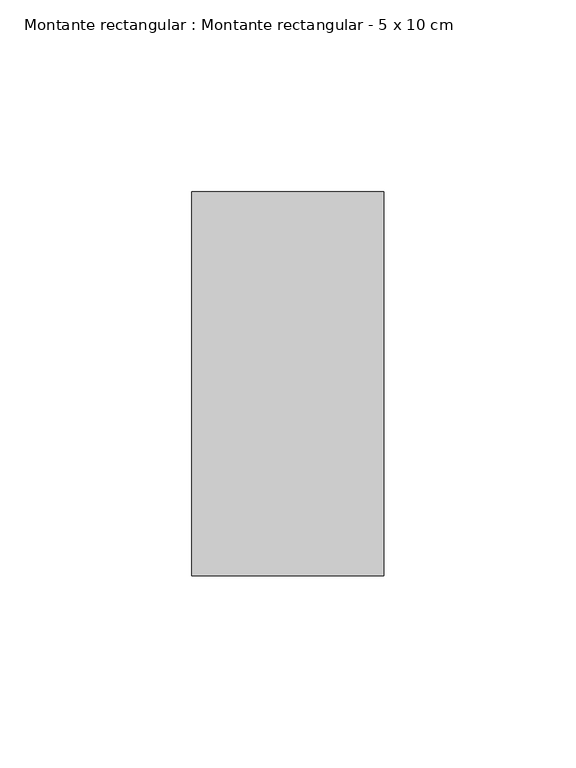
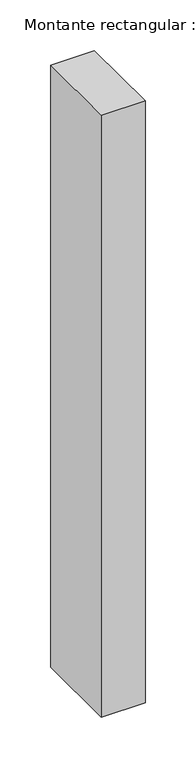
"""IFC4 building model written with IfcOpenShell, lengths in millimetres: member geometry, Montante rectangular : Montante rectangular - 5 x 10 cm."""

from ifc_helpers import new_model, si_unit, frame, origin, place, context, project, spatial, polyline, outline, extrude, source, transform, mapped, element, save


def montante_rectangular_montante_rectangular_5_x_10_cm_d5b309a1(model_context):
    return source(origin(), model_context, "Body", "SweptSolid", [
        extrude(outline(polyline([(25.0, -50.0), (-25.0, -50.0), (-25.0, 50.0), (25.0, 50.0), (25.0, -50.0)])), frame((0.0, 0.0, -726.1203214), z_axis=(0.0, 0.0, 1.0), x_axis=(1.0, 0.0, 0.0)), (0.0, 0.0, 1.0), 726.1203214),
    ])


if __name__ == "__main__":
    model = new_model("IFC4")
    model_context = context("Model", 3, world=origin())
    ifc_project = project(units=[si_unit("LENGTHUNIT", "METRE", prefix="MILLI")], contexts=[model_context])
    site = spatial("IfcSite", under=ifc_project)
    building = spatial("IfcBuilding", under=site)
    placement = place(None, origin())
    montante_rectangular_montante_rectangular_5_x_10_cm_shape = montante_rectangular_montante_rectangular_5_x_10_cm_d5b309a1(model_context)
    element("IfcMember", 1, ObjectType="Montante rectangular : Montante rectangular - 5 x 10 cm", at=placement, inside=building, context=model_context, shape_type="MappedRepresentation", body=[
        mapped(montante_rectangular_montante_rectangular_5_x_10_cm_shape, transform((0.0, 0.0, 0.0), x_axis=(1.0, 0.0, 0.0), y_axis=(0.0, 1.0, 0.0), z_axis=(0.0, 0.0, 1.0))),
    ])
    save(model, "model.ifc")
